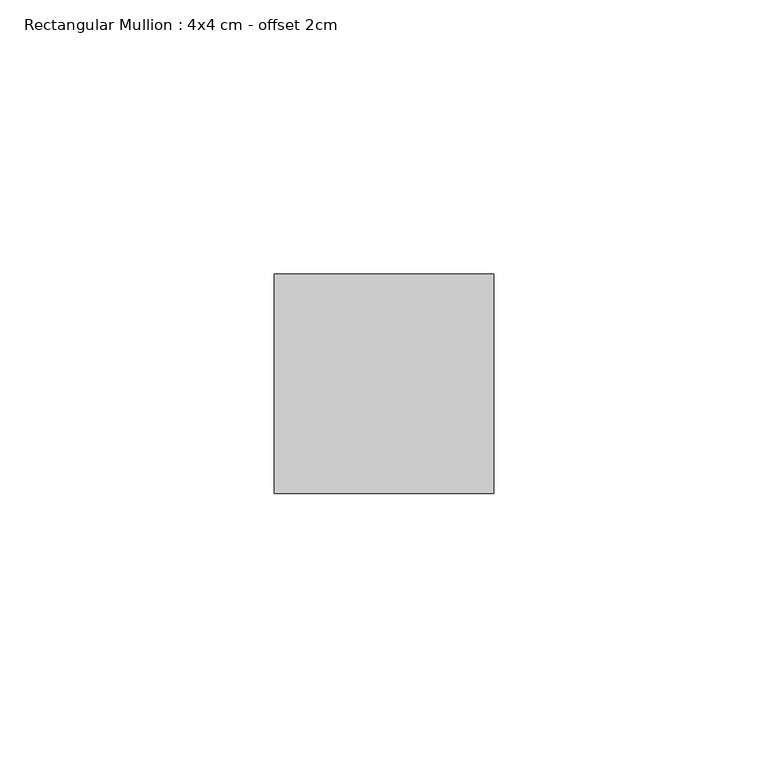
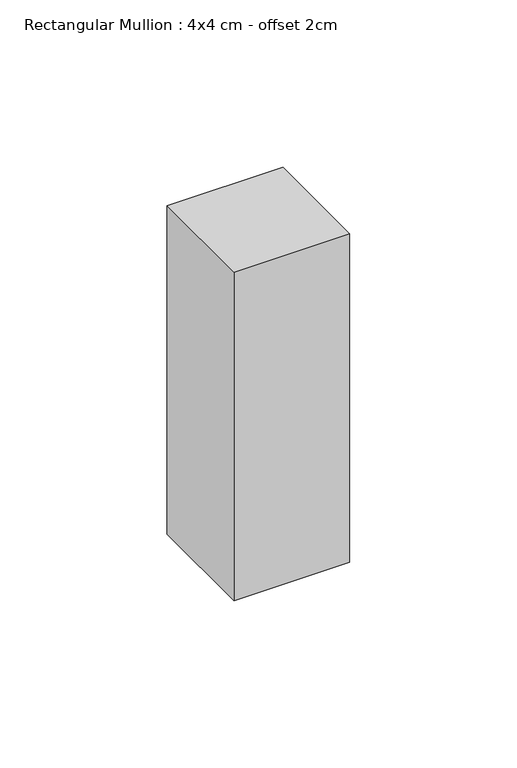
"""IFC4 building model written with IfcOpenShell, lengths in millimetres: member geometry, Rectangular Mullion : 4x4 cm - offset 2cm."""

from ifc_helpers import new_model, si_unit, frame, origin, place, context, project, spatial, polyline, outline, extrude, source, transform, mapped, element, save


def rectangular_mullion_4x4_cm_offset_2cm_859eeaea(model_context):
    return source(origin(), model_context, "Body", "SweptSolid", [
        extrude(outline(polyline([(40.0, 40.0), (40.0, 0.0), (0.0, 0.0), (0.0, 40.0), (40.0, 40.0)])), frame((0.0, 0.0, -120.0), z_axis=(0.0, 0.0, 1.0), x_axis=(1.0, 0.0, 0.0)), (0.0, 0.0, 1.0), 120.0),
    ])


if __name__ == "__main__":
    model = new_model("IFC4")
    model_context = context("Model", 3, world=origin())
    ifc_project = project(units=[si_unit("LENGTHUNIT", "METRE", prefix="MILLI")], contexts=[model_context])
    site = spatial("IfcSite", under=ifc_project)
    building = spatial("IfcBuilding", under=site)
    placement = place(None, origin())
    rectangular_mullion_4x4_cm_offset_2cm_shape = rectangular_mullion_4x4_cm_offset_2cm_859eeaea(model_context)
    element("IfcMember", 1, ObjectType="Rectangular Mullion : 4x4 cm - offset 2cm", at=placement, inside=building, context=model_context, shape_type="MappedRepresentation", body=[
        mapped(rectangular_mullion_4x4_cm_offset_2cm_shape, transform((0.0, 0.0, 0.0), x_axis=(1.0, 0.0, 0.0), y_axis=(0.0, 1.0, 0.0), z_axis=(0.0, 0.0, 1.0))),
    ])
    save(model, "model.ifc")
